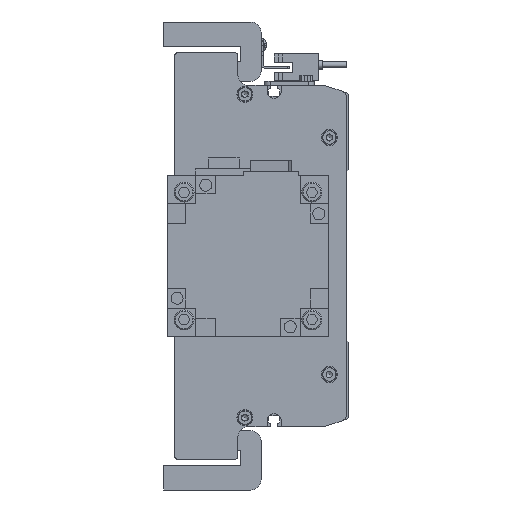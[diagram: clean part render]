
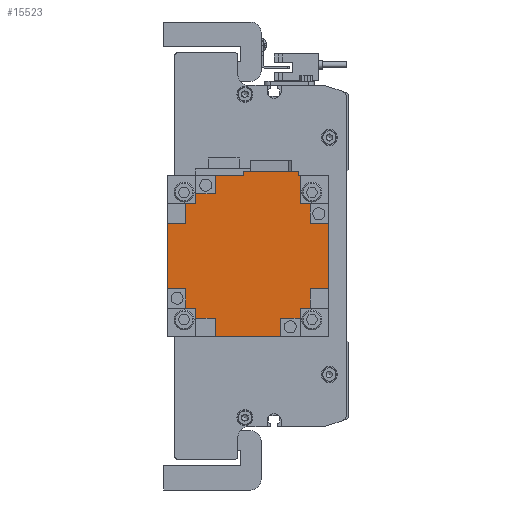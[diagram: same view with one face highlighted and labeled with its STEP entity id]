
A CAD part, left-side view. The second image highlights one B-rep face of the part: STEP entity #15523.
In plain terms, the highlighted planar face has unit normal (-1, 0, 0) as drawn and (0, 1, 0) by its records, which use the part's own axes.
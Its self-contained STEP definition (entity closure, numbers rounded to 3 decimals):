
#1576=ORIENTED_EDGE('',*,*,#5868,.T.);
#1577=ORIENTED_EDGE('',*,*,#5869,.T.);
#1578=ORIENTED_EDGE('',*,*,#5870,.T.);
#1579=ORIENTED_EDGE('',*,*,#5871,.T.);
#1580=ORIENTED_EDGE('',*,*,#5872,.T.);
#1581=ORIENTED_EDGE('',*,*,#5873,.F.);
#1582=ORIENTED_EDGE('',*,*,#5874,.F.);
#1583=ORIENTED_EDGE('',*,*,#5875,.T.);
#1584=ORIENTED_EDGE('',*,*,#5876,.T.);
#1585=ORIENTED_EDGE('',*,*,#5877,.T.);
#1586=ORIENTED_EDGE('',*,*,#5878,.T.);
#1587=ORIENTED_EDGE('',*,*,#5879,.T.);
#1588=ORIENTED_EDGE('',*,*,#5880,.F.);
#1589=ORIENTED_EDGE('',*,*,#5881,.F.);
#1590=ORIENTED_EDGE('',*,*,#5882,.T.);
#1591=ORIENTED_EDGE('',*,*,#5883,.T.);
#1592=ORIENTED_EDGE('',*,*,#5884,.T.);
#1593=ORIENTED_EDGE('',*,*,#5885,.T.);
#1594=ORIENTED_EDGE('',*,*,#5886,.T.);
#1595=ORIENTED_EDGE('',*,*,#5887,.F.);
#1596=ORIENTED_EDGE('',*,*,#5888,.F.);
#1597=ORIENTED_EDGE('',*,*,#5859,.T.);
#1598=ORIENTED_EDGE('',*,*,#5889,.F.);
#1599=ORIENTED_EDGE('',*,*,#5850,.F.);
#1600=ORIENTED_EDGE('',*,*,#5890,.T.);
#1601=ORIENTED_EDGE('',*,*,#5865,.T.);
#1602=ORIENTED_EDGE('',*,*,#5891,.T.);
#1603=ORIENTED_EDGE('',*,*,#5892,.T.);
#1604=ORIENTED_EDGE('',*,*,#5893,.F.);
#1605=ORIENTED_EDGE('',*,*,#5894,.F.);
#5850=EDGE_CURVE('',#8028,#8029,#9606,.T.);
#5859=EDGE_CURVE('',#8038,#8036,#9615,.T.);
#5865=EDGE_CURVE('',#8044,#8043,#9621,.T.);
#5868=EDGE_CURVE('',#8046,#8047,#9624,.T.);
#5869=EDGE_CURVE('',#8047,#8048,#9625,.T.);
#5870=EDGE_CURVE('',#8048,#8049,#9626,.T.);
#5871=EDGE_CURVE('',#8049,#8050,#9627,.T.);
#5872=EDGE_CURVE('',#8050,#8051,#9628,.T.);
#5873=EDGE_CURVE('',#8052,#8051,#9629,.T.);
#5874=EDGE_CURVE('',#8053,#8052,#9630,.T.);
#5875=EDGE_CURVE('',#8053,#8054,#9631,.T.);
#5876=EDGE_CURVE('',#8054,#8055,#9632,.T.);
#5877=EDGE_CURVE('',#8055,#8056,#9633,.T.);
#5878=EDGE_CURVE('',#8056,#8057,#9634,.T.);
#5879=EDGE_CURVE('',#8057,#8058,#9635,.T.);
#5880=EDGE_CURVE('',#8059,#8058,#9636,.T.);
#5881=EDGE_CURVE('',#8060,#8059,#9637,.T.);
#5882=EDGE_CURVE('',#8060,#8061,#9638,.T.);
#5883=EDGE_CURVE('',#8061,#8062,#9639,.T.);
#5884=EDGE_CURVE('',#8062,#8063,#9640,.T.);
#5885=EDGE_CURVE('',#8063,#8064,#9641,.T.);
#5886=EDGE_CURVE('',#8064,#8065,#9642,.T.);
#5887=EDGE_CURVE('',#8066,#8065,#9643,.T.);
#5888=EDGE_CURVE('',#8038,#8066,#9644,.T.);
#5889=EDGE_CURVE('',#8029,#8036,#9645,.T.);
#5890=EDGE_CURVE('',#8028,#8044,#9646,.T.);
#5891=EDGE_CURVE('',#8043,#8067,#9647,.T.);
#5892=EDGE_CURVE('',#8067,#8068,#9648,.T.);
#5893=EDGE_CURVE('',#8069,#8068,#9649,.T.);
#5894=EDGE_CURVE('',#8046,#8069,#9650,.T.);
#8028=VERTEX_POINT('',#23076);
#8029=VERTEX_POINT('',#23077);
#8036=VERTEX_POINT('',#23093);
#8038=VERTEX_POINT('',#23096);
#8043=VERTEX_POINT('',#23106);
#8044=VERTEX_POINT('',#23108);
#8046=VERTEX_POINT('',#23114);
#8047=VERTEX_POINT('',#23115);
#8048=VERTEX_POINT('',#23117);
#8049=VERTEX_POINT('',#23119);
#8050=VERTEX_POINT('',#23121);
#8051=VERTEX_POINT('',#23123);
#8052=VERTEX_POINT('',#23125);
#8053=VERTEX_POINT('',#23127);
#8054=VERTEX_POINT('',#23129);
#8055=VERTEX_POINT('',#23131);
#8056=VERTEX_POINT('',#23133);
#8057=VERTEX_POINT('',#23135);
#8058=VERTEX_POINT('',#23137);
#8059=VERTEX_POINT('',#23139);
#8060=VERTEX_POINT('',#23141);
#8061=VERTEX_POINT('',#23143);
#8062=VERTEX_POINT('',#23145);
#8063=VERTEX_POINT('',#23147);
#8064=VERTEX_POINT('',#23149);
#8065=VERTEX_POINT('',#23151);
#8066=VERTEX_POINT('',#23153);
#8067=VERTEX_POINT('',#23158);
#8068=VERTEX_POINT('',#23160);
#8069=VERTEX_POINT('',#23162);
#9606=LINE('',#23075,#11108);
#9615=LINE('',#23095,#11117);
#9621=LINE('',#23107,#11123);
#9624=LINE('',#23113,#11126);
#9625=LINE('',#23116,#11127);
#9626=LINE('',#23118,#11128);
#9627=LINE('',#23120,#11129);
#9628=LINE('',#23122,#11130);
#9629=LINE('',#23124,#11131);
#9630=LINE('',#23126,#11132);
#9631=LINE('',#23128,#11133);
#9632=LINE('',#23130,#11134);
#9633=LINE('',#23132,#11135);
#9634=LINE('',#23134,#11136);
#9635=LINE('',#23136,#11137);
#9636=LINE('',#23138,#11138);
#9637=LINE('',#23140,#11139);
#9638=LINE('',#23142,#11140);
#9639=LINE('',#23144,#11141);
#9640=LINE('',#23146,#11142);
#9641=LINE('',#23148,#11143);
#9642=LINE('',#23150,#11144);
#9643=LINE('',#23152,#11145);
#9644=LINE('',#23154,#11146);
#9645=LINE('',#23155,#11147);
#9646=LINE('',#23156,#11148);
#9647=LINE('',#23157,#11149);
#9648=LINE('',#23159,#11150);
#9649=LINE('',#23161,#11151);
#9650=LINE('',#23163,#11152);
#11108=VECTOR('',#18402,1000.);
#11117=VECTOR('',#18413,1000.);
#11123=VECTOR('',#18419,1000.);
#11126=VECTOR('',#18424,1000.);
#11127=VECTOR('',#18425,1000.);
#11128=VECTOR('',#18426,1000.);
#11129=VECTOR('',#18427,1000.);
#11130=VECTOR('',#18428,1000.);
#11131=VECTOR('',#18429,1000.);
#11132=VECTOR('',#18430,1000.);
#11133=VECTOR('',#18431,1000.);
#11134=VECTOR('',#18432,1000.);
#11135=VECTOR('',#18433,1000.);
#11136=VECTOR('',#18434,1000.);
#11137=VECTOR('',#18435,1000.);
#11138=VECTOR('',#18436,1000.);
#11139=VECTOR('',#18437,1000.);
#11140=VECTOR('',#18438,1000.);
#11141=VECTOR('',#18439,1000.);
#11142=VECTOR('',#18440,1000.);
#11143=VECTOR('',#18441,1000.);
#11144=VECTOR('',#18442,1000.);
#11145=VECTOR('',#18443,1000.);
#11146=VECTOR('',#18444,1000.);
#11147=VECTOR('',#18445,1000.);
#11148=VECTOR('',#18446,1000.);
#11149=VECTOR('',#18447,1000.);
#11150=VECTOR('',#18448,1000.);
#11151=VECTOR('',#18449,1000.);
#11152=VECTOR('',#18450,1000.);
#12554=EDGE_LOOP('',(#1576,#1577,#1578,#1579,#1580,#1581,#1582,#1583,#1584,
#1585,#1586,#1587,#1588,#1589,#1590,#1591,#1592,#1593,#1594,#1595,#1596,
#1597,#1598,#1599,#1600,#1601,#1602,#1603,#1604,#1605));
#13752=FACE_BOUND('',#12554,.T.);
#14939=PLANE('',#16567);
#15523=ADVANCED_FACE('',(#13752),#14939,.T.);
#16567=AXIS2_PLACEMENT_3D('',#23112,#18422,#18423);
#18402=DIRECTION('',(0.,0.,1.));
#18413=DIRECTION('',(0.,0.,-1.));
#18419=DIRECTION('',(0.,0.,-1.));
#18422=DIRECTION('',(0.,1.,0.));
#18423=DIRECTION('',(0.,0.,1.));
#18424=DIRECTION('',(-1.,0.,0.));
#18425=DIRECTION('',(0.,0.,-1.));
#18426=DIRECTION('',(-1.,0.,0.));
#18427=DIRECTION('',(0.,0.,1.));
#18428=DIRECTION('',(-1.,0.,0.));
#18429=DIRECTION('',(0.,0.,-1.));
#18430=DIRECTION('',(1.,0.,0.));
#18431=DIRECTION('',(0.,0.,1.));
#18432=DIRECTION('',(-1.,0.,0.));
#18433=DIRECTION('',(0.,0.,1.));
#18434=DIRECTION('',(1.,0.,0.));
#18435=DIRECTION('',(0.,0.,1.));
#18436=DIRECTION('',(-1.,0.,0.));
#18437=DIRECTION('',(0.,0.,-1.));
#18438=DIRECTION('',(1.,0.,0.));
#18439=DIRECTION('',(0.,0.,1.));
#18440=DIRECTION('',(1.,0.,0.));
#18441=DIRECTION('',(0.,0.,-1.));
#18442=DIRECTION('',(1.,0.,0.));
#18443=DIRECTION('',(0.,0.,1.));
#18444=DIRECTION('',(-1.,0.,0.));
#18445=DIRECTION('',(-1.,0.,0.));
#18446=DIRECTION('',(-1.,0.,0.));
#18447=DIRECTION('',(-1.,0.,0.));
#18448=DIRECTION('',(0.,0.,-1.));
#18449=DIRECTION('',(1.,0.,0.));
#18450=DIRECTION('',(0.,0.,1.));
#23075=CARTESIAN_POINT('',(42.,138.3,-2.2));
#23076=CARTESIAN_POINT('',(42.,138.3,-2.2));
#23077=CARTESIAN_POINT('',(42.,138.3,25.2));
#23093=CARTESIAN_POINT('',(39.95,138.3,25.2));
#23095=CARTESIAN_POINT('',(39.95,138.3,39.95));
#23096=CARTESIAN_POINT('',(39.95,138.3,25.95));
#23106=CARTESIAN_POINT('',(39.95,138.3,-16.35));
#23107=CARTESIAN_POINT('',(39.95,138.3,39.95));
#23108=CARTESIAN_POINT('',(39.95,138.3,-2.2));
#23112=CARTESIAN_POINT('',(0.,138.3,0.));
#23113=CARTESIAN_POINT('',(0.,138.3,-30.95));
#23114=CARTESIAN_POINT('',(25.95,138.3,-30.95));
#23115=CARTESIAN_POINT('',(16.35,138.3,-30.95));
#23116=CARTESIAN_POINT('',(16.35,138.3,0.));
#23117=CARTESIAN_POINT('',(16.35,138.3,-39.95));
#23118=CARTESIAN_POINT('',(39.95,138.3,-39.95));
#23119=CARTESIAN_POINT('',(-16.35,138.3,-39.95));
#23120=CARTESIAN_POINT('',(-16.35,138.3,0.));
#23121=CARTESIAN_POINT('',(-16.35,138.3,-30.95));
#23122=CARTESIAN_POINT('',(0.,138.3,-30.95));
#23123=CARTESIAN_POINT('',(-25.95,138.3,-30.95));
#23124=CARTESIAN_POINT('',(-25.95,138.3,0.));
#23125=CARTESIAN_POINT('',(-25.95,138.3,-25.95));
#23126=CARTESIAN_POINT('',(0.,138.3,-25.95));
#23127=CARTESIAN_POINT('',(-30.95,138.3,-25.95));
#23128=CARTESIAN_POINT('',(-30.95,138.3,0.));
#23129=CARTESIAN_POINT('',(-30.95,138.3,-16.35));
#23130=CARTESIAN_POINT('',(0.,138.3,-16.35));
#23131=CARTESIAN_POINT('',(-39.95,138.3,-16.35));
#23132=CARTESIAN_POINT('',(-39.95,138.3,-39.95));
#23133=CARTESIAN_POINT('',(-39.95,138.3,16.35));
#23134=CARTESIAN_POINT('',(0.,138.3,16.35));
#23135=CARTESIAN_POINT('',(-30.95,138.3,16.35));
#23136=CARTESIAN_POINT('',(-30.95,138.3,0.));
#23137=CARTESIAN_POINT('',(-30.95,138.3,25.95));
#23138=CARTESIAN_POINT('',(0.,138.3,25.95));
#23139=CARTESIAN_POINT('',(-25.95,138.3,25.95));
#23140=CARTESIAN_POINT('',(-25.95,138.3,0.));
#23141=CARTESIAN_POINT('',(-25.95,138.3,30.95));
#23142=CARTESIAN_POINT('',(0.,138.3,30.95));
#23143=CARTESIAN_POINT('',(-16.35,138.3,30.95));
#23144=CARTESIAN_POINT('',(-16.35,138.3,0.));
#23145=CARTESIAN_POINT('',(-16.35,138.3,39.95));
#23146=CARTESIAN_POINT('',(-39.95,138.3,39.95));
#23147=CARTESIAN_POINT('',(16.35,138.3,39.95));
#23148=CARTESIAN_POINT('',(16.35,138.3,0.));
#23149=CARTESIAN_POINT('',(16.35,138.3,30.95));
#23150=CARTESIAN_POINT('',(0.,138.3,30.95));
#23151=CARTESIAN_POINT('',(25.95,138.3,30.95));
#23152=CARTESIAN_POINT('',(25.95,138.3,0.));
#23153=CARTESIAN_POINT('',(25.95,138.3,25.95));
#23154=CARTESIAN_POINT('',(0.,138.3,25.95));
#23155=CARTESIAN_POINT('',(42.,138.3,25.2));
#23156=CARTESIAN_POINT('',(42.,138.3,-2.2));
#23157=CARTESIAN_POINT('',(0.,138.3,-16.35));
#23158=CARTESIAN_POINT('',(30.95,138.3,-16.35));
#23159=CARTESIAN_POINT('',(30.95,138.3,0.));
#23160=CARTESIAN_POINT('',(30.95,138.3,-25.95));
#23161=CARTESIAN_POINT('',(0.,138.3,-25.95));
#23162=CARTESIAN_POINT('',(25.95,138.3,-25.95));
#23163=CARTESIAN_POINT('',(25.95,138.3,0.));
